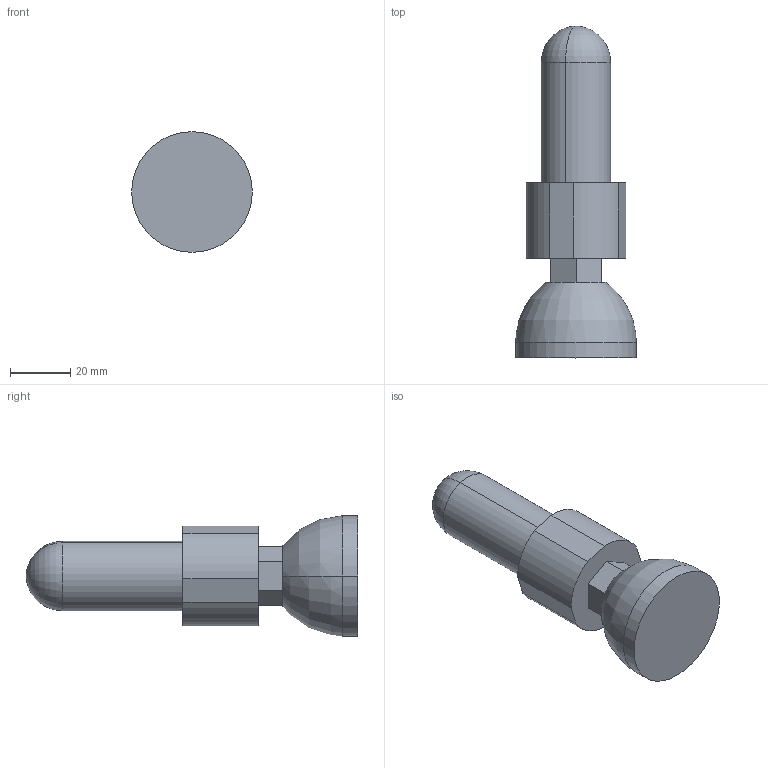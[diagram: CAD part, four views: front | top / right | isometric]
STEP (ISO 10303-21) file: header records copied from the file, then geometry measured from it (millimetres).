
FILE_DESCRIPTION (( 'STEP AP214' ), '1' );
FILE_NAME ('JB-407.step', '2024-02-15T05:11:38', ( 'catia' ), ( 'HP Inc.' ), 'SwSTEP 2.0', 'SolidWorks 2021', '' );
FILE_SCHEMA (( 'AUTOMOTIVE_DESIGN' ));
Length unit declared in the file: millimetre
Products named in the file (4): JB-417; JB-407; JB-407_轡寶M10
Assembly tree (3 placements, depth 2):
  JB-407
    JB-407
    JB-417
    JB-407_轡寶M10
Bounding box: 40 x 110 x 40 mm (x, y, z)
Volume: 63857.8 mm3; surface area: 21139.9 mm2
Topology: 3 solids, 3 shells, 40 faces, 90 edges, 56 vertices
Faces by surface type: plane 18, cylinder 16, torus 4, cone 2
Entity records: 1254 total; most frequent: DIRECTION 216, CARTESIAN_POINT 188, ORIENTED_EDGE 172, EDGE_CURVE 86, AXIS2_PLACEMENT_3D 84, VERTEX_POINT 56, VECTOR 48, LINE 48
